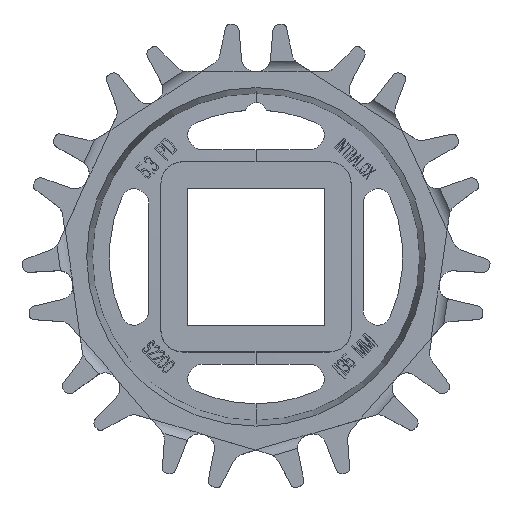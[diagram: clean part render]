
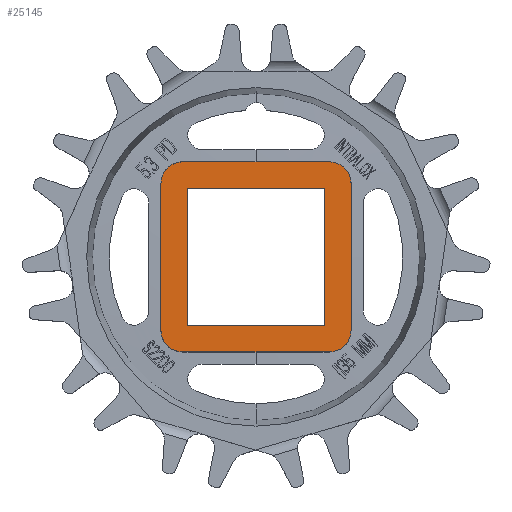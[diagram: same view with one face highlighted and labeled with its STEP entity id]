
A CAD part, top view. The second image highlights one B-rep face of the part: STEP entity #25145.
In plain terms, the highlighted planar face has unit normal (0, 0, 1).
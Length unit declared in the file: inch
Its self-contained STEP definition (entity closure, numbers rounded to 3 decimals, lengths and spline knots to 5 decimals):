
#9103=CARTESIAN_POINT('',(0.8375,-0.8375,0.49));
#9104=DIRECTION('',(0.,0.,1.));
#9105=DIRECTION('',(0.,-1.,0.));
#9106=AXIS2_PLACEMENT_3D('',#9103,#9104,#9105);
#9108=DIRECTION('',(1.,0.,0.));
#9109=VECTOR('',#9108,1.675);
#9110=CARTESIAN_POINT('',(-0.8375,-1.0875,0.49));
#9111=LINE('',#9110,#9109);
#9112=CARTESIAN_POINT('',(-0.8375,-0.8375,0.49));
#9113=DIRECTION('',(0.,0.,1.));
#9114=DIRECTION('',(-1.,0.,0.));
#9115=AXIS2_PLACEMENT_3D('',#9112,#9113,#9114);
#9117=DIRECTION('',(0.,-1.,0.));
#9118=VECTOR('',#9117,1.675);
#9119=CARTESIAN_POINT('',(-1.0875,0.8375,0.49));
#9120=LINE('',#9119,#9118);
#9121=CARTESIAN_POINT('',(-0.8375,0.8375,0.49));
#9122=DIRECTION('',(0.,0.,1.));
#9123=DIRECTION('',(0.,1.,0.));
#9124=AXIS2_PLACEMENT_3D('',#9121,#9122,#9123);
#9126=DIRECTION('',(-1.,0.,0.));
#9127=VECTOR('',#9126,1.675);
#9128=CARTESIAN_POINT('',(0.8375,1.0875,0.49));
#9129=LINE('',#9128,#9127);
#9130=CARTESIAN_POINT('',(0.8375,0.8375,0.49));
#9131=DIRECTION('',(0.,0.,1.));
#9132=DIRECTION('',(1.,0.,0.));
#9133=AXIS2_PLACEMENT_3D('',#9130,#9131,#9132);
#9135=DIRECTION('',(0.,1.,0.));
#9136=VECTOR('',#9135,1.675);
#9137=CARTESIAN_POINT('',(1.0875,-0.8375,0.49));
#9138=LINE('',#9137,#9136);
#9139=DIRECTION('',(1.,0.,0.));
#9140=VECTOR('',#9139,1.575);
#9141=CARTESIAN_POINT('',(-0.7875,-0.7875,0.49));
#9142=LINE('',#9141,#9140);
#9143=DIRECTION('',(0.,1.,0.));
#9144=VECTOR('',#9143,1.575);
#9145=CARTESIAN_POINT('',(0.7875,-0.7875,0.49));
#9146=LINE('',#9145,#9144);
#9147=DIRECTION('',(-1.,0.,0.));
#9148=VECTOR('',#9147,1.575);
#9149=CARTESIAN_POINT('',(0.7875,0.7875,0.49));
#9150=LINE('',#9149,#9148);
#9151=DIRECTION('',(0.,-1.,0.));
#9152=VECTOR('',#9151,1.575);
#9153=CARTESIAN_POINT('',(-0.7875,0.7875,0.49));
#9154=LINE('',#9153,#9152);
#16078=CARTESIAN_POINT('',(-0.7875,-0.7875,0.49));
#16079=CARTESIAN_POINT('',(0.7875,-0.7875,0.49));
#16080=VERTEX_POINT('',#16078);
#16081=VERTEX_POINT('',#16079);
#16082=CARTESIAN_POINT('',(0.7875,0.7875,0.49));
#16083=VERTEX_POINT('',#16082);
#16084=CARTESIAN_POINT('',(-0.7875,0.7875,0.49));
#16085=VERTEX_POINT('',#16084);
#17404=CARTESIAN_POINT('',(0.8375,-1.0875,0.49));
#17405=VERTEX_POINT('',#17404);
#17406=CARTESIAN_POINT('',(1.0875,-0.8375,0.49));
#17407=VERTEX_POINT('',#17406);
#17408=CARTESIAN_POINT('',(-1.0875,-0.8375,0.49));
#17409=VERTEX_POINT('',#17408);
#17410=CARTESIAN_POINT('',(-0.8375,-1.0875,0.49));
#17411=VERTEX_POINT('',#17410);
#17432=CARTESIAN_POINT('',(1.0875,0.8375,0.49));
#17434=VERTEX_POINT('',#17432);
#17436=CARTESIAN_POINT('',(0.8375,1.0875,0.49));
#17437=VERTEX_POINT('',#17436);
#17444=CARTESIAN_POINT('',(-0.8375,1.0875,0.49));
#17446=VERTEX_POINT('',#17444);
#17448=CARTESIAN_POINT('',(-1.0875,0.8375,0.49));
#17449=VERTEX_POINT('',#17448);
#25114=CARTESIAN_POINT('',(0.,0.,0.49));
#25115=DIRECTION('',(0.,0.,1.));
#25116=DIRECTION('',(1.,0.,0.));
#25117=AXIS2_PLACEMENT_3D('',#25114,#25115,#25116);
#25118=PLANE('',#25117);
#25119=ORIENTED_EDGE('',*,*,#25107,.F.);
#25120=ORIENTED_EDGE('',*,*,#25079,.F.);
#25122=ORIENTED_EDGE('',*,*,#25121,.F.);
#25124=ORIENTED_EDGE('',*,*,#25123,.F.);
#25126=ORIENTED_EDGE('',*,*,#25125,.F.);
#25128=ORIENTED_EDGE('',*,*,#25127,.F.);
#25130=ORIENTED_EDGE('',*,*,#25129,.F.);
#25132=ORIENTED_EDGE('',*,*,#25131,.F.);
#25133=EDGE_LOOP('',(#25119,#25120,#25122,#25124,#25126,#25128,#25130,#25132));
#25134=FACE_OUTER_BOUND('',#25133,.F.);
#25136=ORIENTED_EDGE('',*,*,#25135,.T.);
#25138=ORIENTED_EDGE('',*,*,#25137,.T.);
#25140=ORIENTED_EDGE('',*,*,#25139,.T.);
#25142=ORIENTED_EDGE('',*,*,#25141,.T.);
#25143=EDGE_LOOP('',(#25136,#25138,#25140,#25142));
#25144=FACE_BOUND('',#25143,.F.);
#25145=ADVANCED_FACE('',(#25134,#25144),#25118,.T.);
#9107=CIRCLE('',#9106,0.25);
#9116=CIRCLE('',#9115,0.25);
#9125=CIRCLE('',#9124,0.25);
#9134=CIRCLE('',#9133,0.25);
#25079=EDGE_CURVE('',#17411,#17405,#9111,.T.);
#25107=EDGE_CURVE('',#17405,#17407,#9107,.T.);
#25121=EDGE_CURVE('',#17409,#17411,#9116,.T.);
#25123=EDGE_CURVE('',#17449,#17409,#9120,.T.);
#25125=EDGE_CURVE('',#17446,#17449,#9125,.T.);
#25127=EDGE_CURVE('',#17437,#17446,#9129,.T.);
#25129=EDGE_CURVE('',#17434,#17437,#9134,.T.);
#25131=EDGE_CURVE('',#17407,#17434,#9138,.T.);
#25135=EDGE_CURVE('',#16080,#16081,#9142,.T.);
#25137=EDGE_CURVE('',#16081,#16083,#9146,.T.);
#25139=EDGE_CURVE('',#16083,#16085,#9150,.T.);
#25141=EDGE_CURVE('',#16085,#16080,#9154,.T.);
